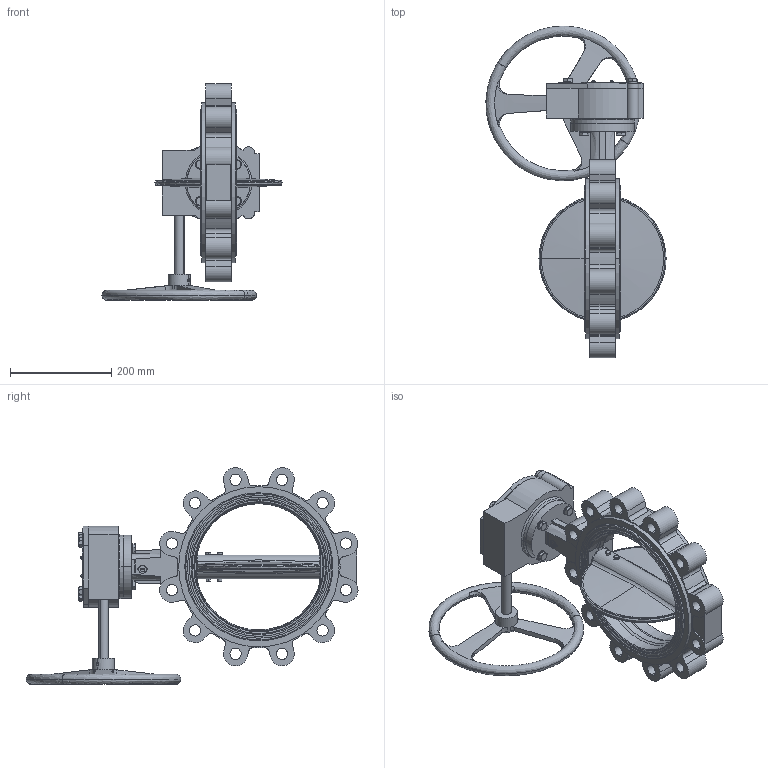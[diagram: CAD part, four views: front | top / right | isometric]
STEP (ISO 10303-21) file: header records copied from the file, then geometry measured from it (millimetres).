
FILE_DESCRIPTION (( 'STEP AP214' ), '1' );
FILE_NAME ('VPG464X-08XX0250.step', '2022-06-30T08:13:05', ( '' ), ( '' ), 'SwSTEP 2.0', 'SolidWorks 2020', '' );
FILE_SCHEMA (( 'AUTOMOTIVE_DESIGN' ));
Length unit declared in the file: millimetre
Products named in the file (1): VPG464X-08XX0250
Bounding box: 355.2 x 654.33 x 426.93 mm (x, y, z)
Surface area: 737826.4 mm2 (no closed solid volume)
Topology: 0 solids, 72 shells, 821 faces, 5755 edges, 4905 vertices
Faces by surface type: plane 478, cylinder 195, cone 75, bspline 73
Entity records: 87214 total; most frequent: CARTESIAN_POINT 38864, ORIENTED_EDGE 7571, DIRECTION 6376, EDGE_CURVE 5745, VERTEX_POINT 4905, VECTOR 3458, LINE 3458, B_SPLINE_CURVE_WITH_KNOTS 1551
